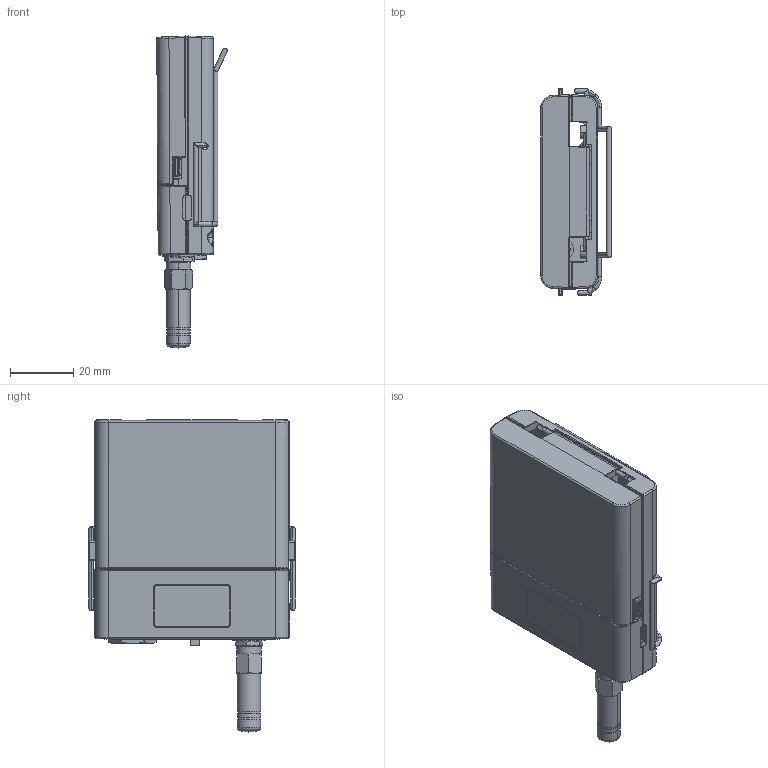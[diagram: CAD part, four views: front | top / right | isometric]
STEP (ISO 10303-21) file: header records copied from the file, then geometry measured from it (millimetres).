
FILE_DESCRIPTION((''),'2;1');
FILE_NAME('BELTPACK_ASM','2024-06-06T03:10:46',('DELL'),(''),'CREO PARAMETRIC BY PTC INC, 2022073','CREO PARAMETRIC BY PTC INC, 2022073','');
FILE_SCHEMA(('CONFIG_CONTROL_DESIGN'));
Length unit declared in the file: millimetre
Products named in the file (23): CM-P009-2707_SC8-BP-BOTTOM_REV3; CM-P009-2709_SC8-BP-BDOOR_REV2_; MCH-0352-001_REV1_X; SC8-BP-BUTTONS; SC8-BP-DOOR-LOCK_REV2_X; SC8-BP-LENS; SC8-BP-LENS-HOLDER; 00; BODY12; BODY49; BODY21; BODY18; BODY20; CUT-REVOLVE2; RING; MARK_1; ANTENNA; HOUSING; MARK_2; CUT-EXTRUDE3; ANT-2_4-CW-RH-RPS_1_ASM; ANT-2_4-CW-RH-RPS_ASM; BELTPACK_ASM
Assembly tree (22 placements, depth 4):
  BELTPACK_ASM
    CM-P009-2707_SC8-BP-BOTTOM_REV3
    CM-P009-2709_SC8-BP-BDOOR_REV2_
    MCH-0352-001_REV1_X
    SC8-BP-BUTTONS
    SC8-BP-DOOR-LOCK_REV2_X
    SC8-BP-LENS
    SC8-BP-LENS-HOLDER
    00
    BODY12
    BODY49
    BODY21
    BODY18
    BODY20
    ANT-2_4-CW-RH-RPS_ASM
      ANT-2_4-CW-RH-RPS_1_ASM
        CUT-REVOLVE2
        RING
        MARK_1
        ANTENNA
        HOUSING
        MARK_2
        CUT-EXTRUDE3
Bounding box: 22.35 x 65.6 x 98.97 mm (x, y, z)
Volume: 20802.9 mm3; surface area: 34661.6 mm2
Topology: 20 solids, 20 shells, 1220 faces, 3221 edges, 2071 vertices
Faces by surface type: plane 545, cylinder 360, cone 171, torus 101, bspline 25, sphere 18
Entity records: 49117 total; most frequent: CARTESIAN_POINT 18364, ORIENTED_EDGE 6408, DIRECTION 6360, EDGE_CURVE 3204, AXIS2_PLACEMENT_3D 2325, VERTEX_POINT 2071, VECTOR 1710, LINE 1710
